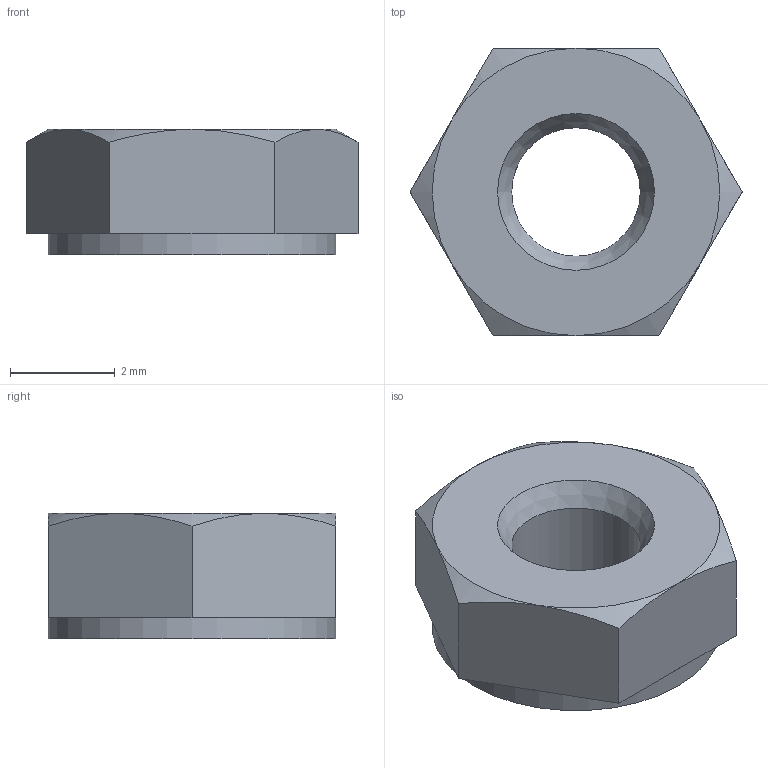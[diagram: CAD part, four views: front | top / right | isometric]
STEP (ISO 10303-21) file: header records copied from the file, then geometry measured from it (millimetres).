
FILE_DESCRIPTION(/* description */ ('STEP AP242 Edition 2','CAx-IF Rec.Pracs.---Representation and Presentation of Product Manufacturing Information (PMI)---4.0---2014-10-13','CAx-IF Rec.Pracs.---3D Tessellated Geometry---0.4---2014-09-14','2;1','CAx-IF Rec.Pracs.---User Defined Attributes---1.5---2016-08-15'),/* implementation_level */ '2;1');
FILE_NAME(/* name */ 'HIRO posing assembly - Hex nut grade A & B M3x0.5',/* time_stamp */ '2026-11-04T05:15:20Z',/* author */ (''),/* organization */ (''),/* preprocessor_version */ 'ST-DEVELOPER v20',/* originating_system */ 'ONSHAPE BY PTC INC, 1.223',/* authorisation */ ' ');
FILE_SCHEMA (('AP242_MANAGED_MODEL_BASED_3D_ENGINEERING_MIM_LF { 1 0 10303 442 3 1 4 }'));
Length unit declared in the file: metre
Products named in the file (1): Hex nut grade A & B M3x0.5
Bounding box: 6.35 x 5.5 x 2.4 mm (x, y, z)
Volume: 49.3 mm3; surface area: 102.6 mm2
Topology: 1 solids, 1 shells, 24 faces, 51 edges, 29 vertices
Faces by surface type: plane 14, cone 8, cylinder 2
Full cylindrical faces by diameter (mm): 2.459 x1, 5.5 x1
Entity records: 650 total; most frequent: CARTESIAN_POINT 137, DIRECTION 102, ORIENTED_EDGE 94, EDGE_CURVE 47, AXIS2_PLACEMENT_3D 42, EDGE_LOOP 30, FACE_BOUND 30, VERTEX_POINT 29
